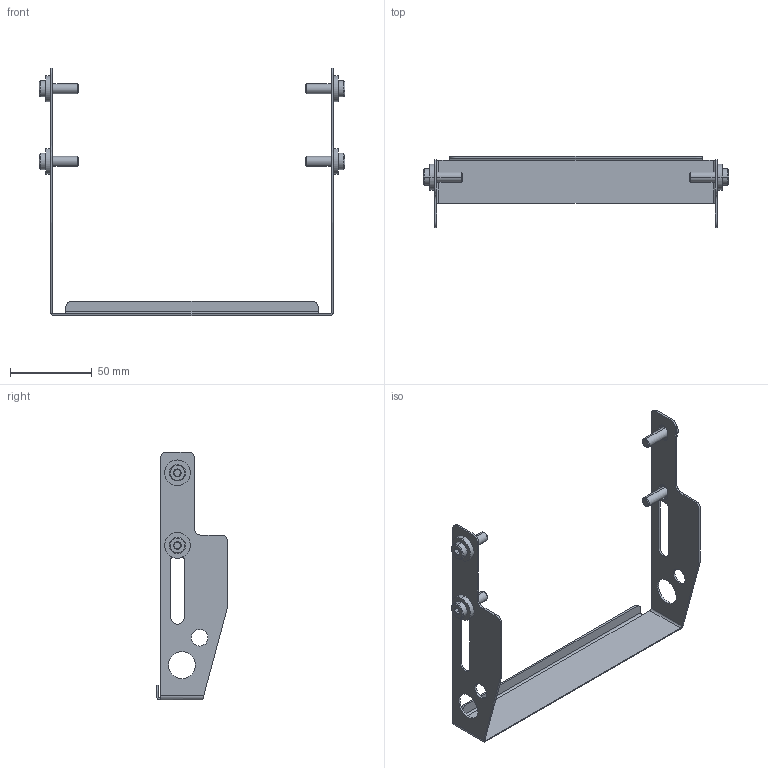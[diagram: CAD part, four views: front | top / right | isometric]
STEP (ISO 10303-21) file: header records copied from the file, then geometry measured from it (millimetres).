
FILE_DESCRIPTION((''),'2;1');
FILE_NAME('207218-06_ASM','2016-07-27T',('adam.dellomodarme'),(''),'PRO/ENGINEER BY PARAMETRIC TECHNOLOGY CORPORATION, 2012420','PRO/ENGINEER BY PARAMETRIC TECHNOLOGY CORPORATION, 2012420','');
FILE_SCHEMA(('CONFIG_CONTROL_DESIGN'));
Length unit declared in the file: inch
Products named in the file (5): 605279P; 207125_207125-06; 9506XXM_950620M; ASM0003_ASM; 207218-06_ASM
Assembly tree (10 placements, depth 3):
  207218-06_ASM
    ASM0003_ASM
      605279P  x4
      207125_207125-06
      9506XXM_950620M  x4
Bounding box: 187.1 x 43.71 x 151.79 mm (x, y, z)
Volume: 22159.1 mm3; surface area: 34497.9 mm2
Topology: 9 solids, 9 shells, 212 faces, 492 edges, 306 vertices
Faces by surface type: plane 90, cylinder 78, cone 44
Entity records: 3969 total; most frequent: CARTESIAN_POINT 721, DIRECTION 705, ORIENTED_EDGE 618, EDGE_CURVE 309, AXIS2_PLACEMENT_3D 265, VERTEX_POINT 198, VECTOR 175, LINE 175
